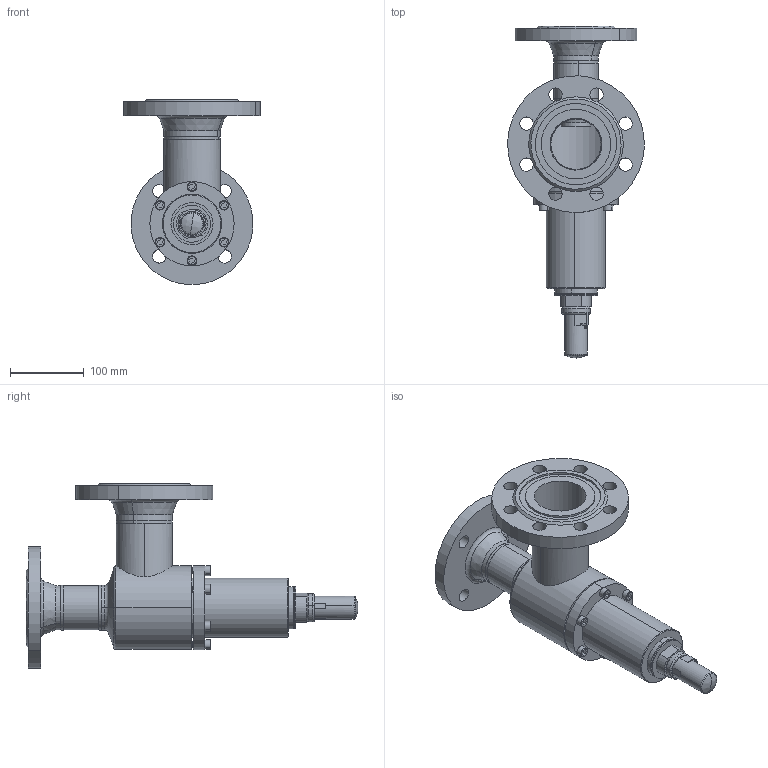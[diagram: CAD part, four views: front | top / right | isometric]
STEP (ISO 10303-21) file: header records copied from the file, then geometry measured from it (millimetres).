
FILE_DESCRIPTION (( 'STEP AP214' ), '1' );
FILE_NAME ('ORV 452FL-C15-DN50''65_DIN-FL_PS25.STEP', '2010-06-17T08:32:25', ( 'Eckhard Grams' ), ( 'AWP Kälte Klima Armaturen GmbH' ), 'SwSTEP 2.0', 'SolidWorks 2002296', '' );
FILE_SCHEMA (( 'AUTOMOTIVE_DESIGN' ));
Length unit declared in the file: millimetre
Products named in the file (16): ORV 452FL-C15-DN50''65_DIN-FL_PS25; Deckel_ORV_DN40-50_Standard; Loser-FL44331.14-DN40-SVU_PS25_(DN40-50-SVA-ORV)_Standard; Geh,kpl 43220B15-DN50''65_DIN-FL_PS25_Standard; Flansch-DIN2635-Nut_PS40_DIN-Flansch-DN065_PS40-Nut; Flansch-DIN2635-Nut_PS40_DIN-Flansch-DN050_PS40-Nut; Geh-kpl43200B15-DN50''65_R1_PS25_Standard; bead43200B15-Geh-kpl-PS25_Standard; Geh-körper,kpl43200B15-DN50_PS25_R1_Standard; Rohrstutzen43200E15-DN50''65_R1_STANDARD; Rohrstutzen-E43200E15-DN50_R1_STANDARD; bead43220B15-Geh-kpl_PS25b_Standard; bead43220B15-Geh-kpl_PS25a_Standard; Haube-ORV-DN40-50_Standard; Kappe SVA-SVU-ORV_DN10-40 (M27x1,5)_Standard; Zylinderschraube-DIN912-M 8x30_M 8x 25
Assembly tree (20 placements, depth 4):
  ORV 452FL-C15-DN50''65_DIN-FL_PS25
    Haube-ORV-DN40-50_Standard
    Loser-FL44331.14-DN40-SVU_PS25_(DN40-50-SVA-ORV)_Standard
    Deckel_ORV_DN40-50_Standard
    Zylinderschraube-DIN912-M 8x30_M 8x 25  x6
    Kappe SVA-SVU-ORV_DN10-40 (M27x1,5)_Standard
    Geh,kpl 43220B15-DN50''65_DIN-FL_PS25_Standard
      Flansch-DIN2635-Nut_PS40_DIN-Flansch-DN065_PS40-Nut
      Flansch-DIN2635-Nut_PS40_DIN-Flansch-DN050_PS40-Nut
      Geh-kpl43200B15-DN50''65_R1_PS25_Standard
        bead43200B15-Geh-kpl-PS25_Standard
        Geh-körper,kpl43200B15-DN50_PS25_R1_Standard
        Rohrstutzen43200E15-DN50''65_R1_STANDARD
        Rohrstutzen-E43200E15-DN50_R1_STANDARD
      bead43220B15-Geh-kpl_PS25b_Standard
      bead43220B15-Geh-kpl_PS25a_Standard
Bounding box: 184.82 x 449 x 250.19 mm (x, y, z)
Volume: 1618198.3 mm3; surface area: 433937.9 mm2
Topology: 18 solids, 18 shells, 735 faces, 1908 edges, 1223 vertices
Faces by surface type: cylinder 442, plane 126, cone 90, torus 41, bspline 32, sphere 4
Entity records: 29607 total; most frequent: CARTESIAN_POINT 18310, ORIENTED_EDGE 2178, DIRECTION 2121, EDGE_CURVE 1089, AXIS2_PLACEMENT_3D 879, VERTEX_POINT 693, EDGE_LOOP 520, FACE_OUTER_BOUND 440
